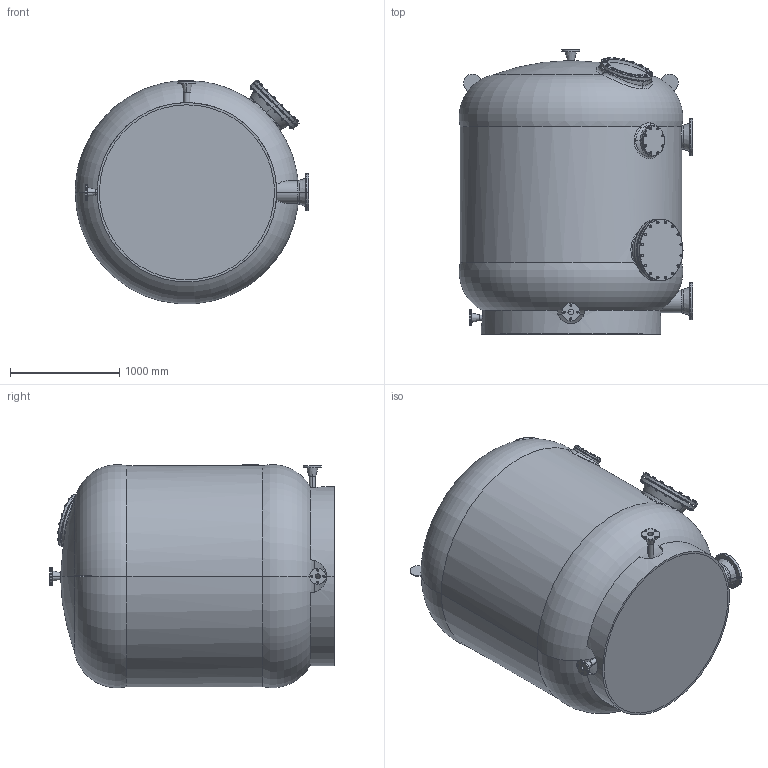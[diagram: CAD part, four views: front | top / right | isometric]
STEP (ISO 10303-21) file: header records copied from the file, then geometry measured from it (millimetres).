
FILE_DESCRIPTION (( 'STEP AP214' ), '1' );
FILE_NAME ('mediterran200c_.STEP', '2020-11-03T12:14:16', ( '' ), ( '' ), 'SwSTEP 2.0', 'SolidWorks 2019', '' );
FILE_SCHEMA (( 'AUTOMOTIVE_DESIGN' ));
Length unit declared in the file: millimetre
Products named in the file (1): mediterran200c_
Bounding box: 2135.17 x 2599.64 x 2044.19 mm (x, y, z)
Surface area: 25609507.9 mm2 (no closed solid volume)
Topology: 0 solids, 142 shells, 1167 faces, 2945 edges, 1852 vertices
Faces by surface type: plane 497, cone 323, cylinder 250, torus 80, bspline 13, sphere 4
Entity records: 79053 total; most frequent: CARTESIAN_POINT 44081, ORIENTED_EDGE 5026, EDGE_CURVE 2943, DIRECTION 2863, B_SPLINE_CURVE_WITH_KNOTS 2623, VERTEX_POINT 1852, AXIS2_PLACEMENT_3D 1388, EDGE_LOOP 1238
